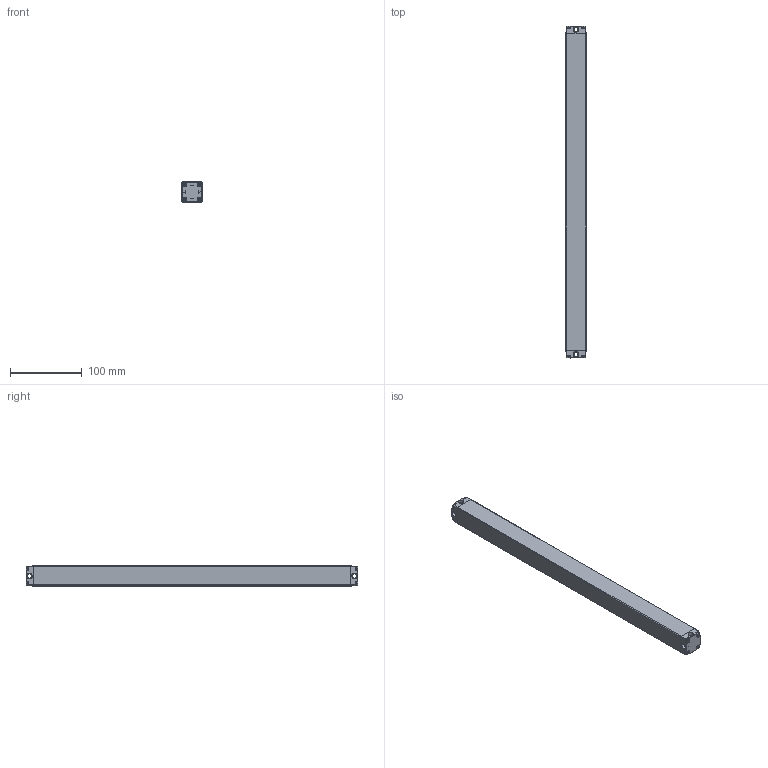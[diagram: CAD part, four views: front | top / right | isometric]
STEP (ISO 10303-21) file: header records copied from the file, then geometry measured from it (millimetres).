
FILE_DESCRIPTION((''),'2;1');
FILE_NAME('ELD00_ASM','2021-07-20T09:24:57',('18720616900'),(''),'CREO PARAMETRIC BY PTC INC, 2019010','CREO PARAMETRIC BY PTC INC, 2019010','');
FILE_SCHEMA(('CONFIG_CONTROL_DESIGN'));
Length unit declared in the file: millimetre
Products named in the file (6): ELD--00; ELD--000; ST-3-12; ELD00_ASM
Assembly tree (12 placements, depth 2):
  ELD00_ASM
    ELD--00
    ELD--000
    ELD--000
    ELD--000
    ST-3-12  x8
Bounding box: 28 x 462 x 28 mm (x, y, z)
Volume: 357975.1 mm3; surface area: 79603.6 mm2
Topology: 12 solids, 12 shells, 792 faces, 2082 edges, 1296 vertices
Faces by surface type: plane 236, cone 172, bspline 168, cylinder 156, torus 44, sphere 16
Entity records: 14414 total; most frequent: CARTESIAN_POINT 6863, ORIENTED_EDGE 1584, DIRECTION 1469, EDGE_CURVE 792, AXIS2_PLACEMENT_3D 520, VERTEX_POINT 491, VECTOR 429, LINE 429
